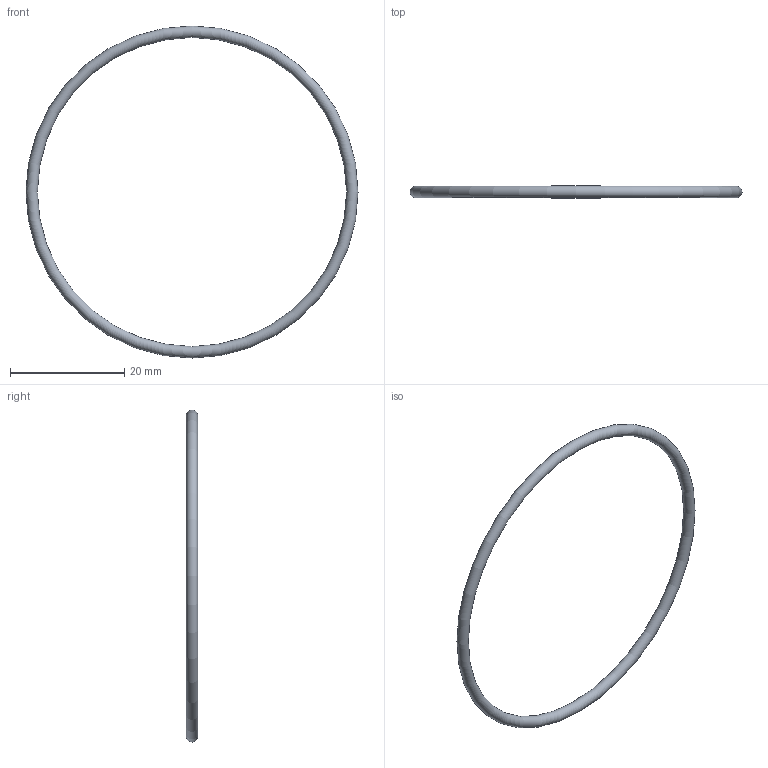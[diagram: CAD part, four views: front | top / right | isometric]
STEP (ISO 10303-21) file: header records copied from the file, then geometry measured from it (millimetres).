
FILE_DESCRIPTION( ( 'STEP AP203' ), '1' );
FILE_NAME( 'C:/Temp/Ganter_Step_05_03_2020/data/3_5/or638/O-Ring OR638-54.00-2.00-70.stp', '2020-03-12T13:44:23', ( 'License CC BY-ND 4.0' ), ( 'CADENAS' ), ' ', 'PARTsolutions', ' ' );
FILE_SCHEMA( ( 'CONFIG_CONTROL_DESIGN' ) );
Length unit declared in the file: millimetre
Products named in the file (1): _O-Ring OR638-54.00-2.00-70
Bounding box: 58 x 2 x 58 mm (x, y, z)
Volume: 552.7 mm3; surface area: 1105.4 mm2
Topology: 1 solids, 1 shells, 1 faces, 2 edges, 1 vertices
Faces by surface type: torus 1
Entity records: 62 total; most frequent: CC_DESIGN_PERSON_AND_ORGANIZATION_ASSIGNMENT 5, PERSON_AND_ORGANIZATION_ROLE 4, DIRECTION 4, CARTESIAN_POINT 3, DATE_TIME_ROLE 2, CC_DESIGN_DATE_AND_TIME_ASSIGNMENT 2, AXIS2_PLACEMENT_3D 2, DIMENSIONAL_EXPONENTS 2
